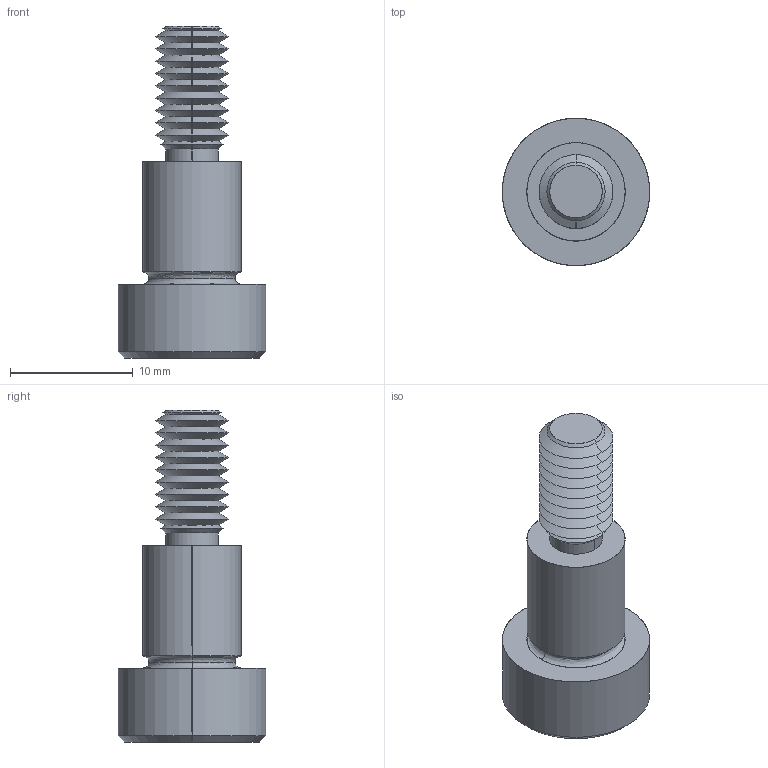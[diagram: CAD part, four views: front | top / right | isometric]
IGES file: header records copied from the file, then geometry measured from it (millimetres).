
Start section: SolidWorks IGES file using analytic representation for surfaces
Global section: file name: C:\Users\IanO\Documents\Temp Folder\GENERAL\SCREW REVISION\P0130_v2\P0130.T5_v2_20220106_IGES\P0130.080-010-T5.igs; native system: SolidWorks 2019; preprocessor: SolidWorks 2019; author: IanO; date: 220106.223205; units: millimetre
Bounding box: 12 x 12 x 27 mm (x, y, z)
Surface area: 1087.6 mm2 (no closed solid volume)
Topology: 0 solids, 0 shells, 80 faces, 580 edges, 578 vertices
Faces by surface type: revolution 60, bspline 20
